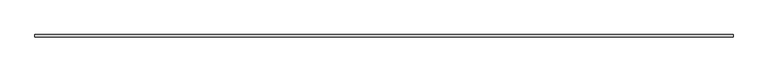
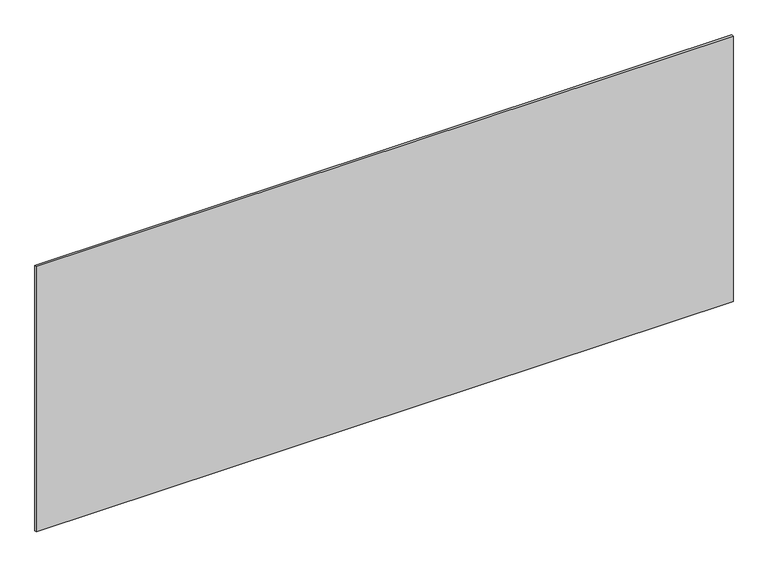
"""IFC4 building model written with IfcOpenShell, lengths in millimetres: plate geometry, Curtain-Panels_Outdoor-Material_HI-MACS_Solids : S115_Deep-Indigo_12mm."""

from ifc_helpers import new_model, si_unit, origin, origin_with_axes, place, context, project, spatial, polyline, outline, extrude, source, transform, mapped, element, save


def plate_cc4c7bb0(model_context):
    return source(origin(), model_context, "Body", "SweptSolid", [
        extrude(outline(polyline([(1840.0, 6.0), (1840.0, -6.0), (-1840.0, -6.0), (-1840.0, 6.0), (1840.0, 6.0)])), origin_with_axes(), (0.0, 0.0, 1.0), 1482.3016845),
    ])


if __name__ == "__main__":
    model = new_model("IFC4")
    model_context = context("Model", 3, world=origin())
    ifc_project = project(units=[si_unit("LENGTHUNIT", "METRE", prefix="MILLI")], contexts=[model_context])
    site = spatial("IfcSite", under=ifc_project)
    building = spatial("IfcBuilding", under=site)
    placement = place(None, origin())
    plate_shape = plate_cc4c7bb0(model_context)
    element("IfcPlate", 1, ObjectType="Curtain-Panels_Outdoor-Material_HI-MACS_Solids : S115_Deep-Indigo_12mm", at=placement, inside=building, context=model_context, shape_type="MappedRepresentation", body=[
        mapped(plate_shape, transform((0.0, 0.0, 0.0), x_axis=(1.0, 0.0, 0.0), y_axis=(0.0, 1.0, 0.0), z_axis=(0.0, 0.0, 1.0))),
    ])
    save(model, "model.ifc")
